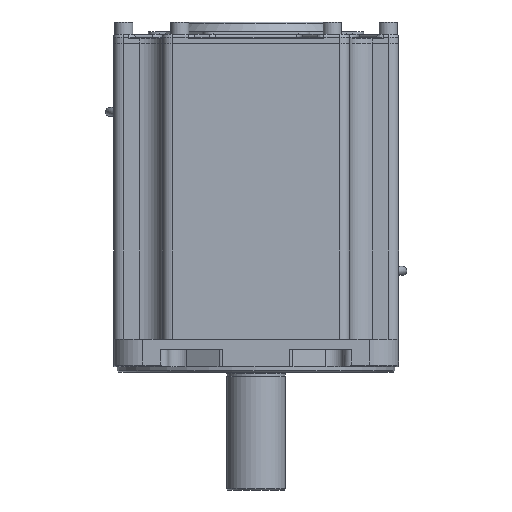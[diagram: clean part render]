
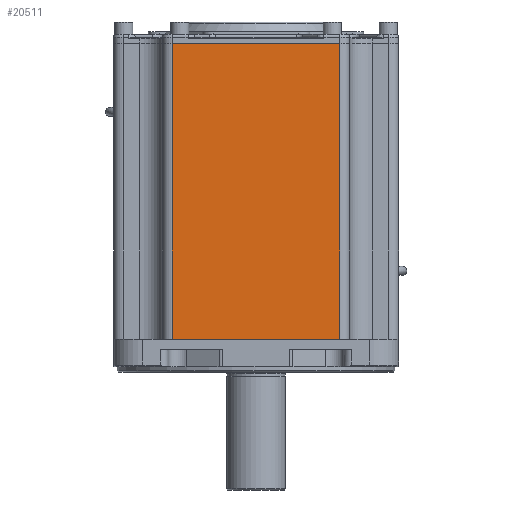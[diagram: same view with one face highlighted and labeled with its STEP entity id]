
A CAD part, front view. The second image highlights one B-rep face of the part: STEP entity #20511.
In plain terms, the highlighted planar face has unit normal (0, -1, 0).
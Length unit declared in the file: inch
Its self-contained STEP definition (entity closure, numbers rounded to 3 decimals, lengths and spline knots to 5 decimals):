
#5789=CARTESIAN_POINT('',(2.14,-3.64,7.91));
#5790=VERTEX_POINT('',#5789);
#6002=CARTESIAN_POINT('',(-2.14,-3.64,7.91));
#6003=VERTEX_POINT('',#6002);
#6010=CARTESIAN_POINT('',(-2.14,-3.64,7.91));
#6011=DIRECTION('',(1.0,0.0,0.0));
#6012=VECTOR('',#6011,4.28);
#6013=LINE('',#6010,#6012);
#6014=EDGE_CURVE('',#6003,#5790,#6013,.T.);
#8060=CARTESIAN_POINT('',(-2.14,-3.64,0.35));
#8061=VERTEX_POINT('',#8060);
#8069=CARTESIAN_POINT('',(-2.14,-3.64,0.35));
#8070=DIRECTION('',(0.0,0.0,1.0));
#8071=VECTOR('',#8070,7.56);
#8072=LINE('',#8069,#8071);
#8073=EDGE_CURVE('',#8061,#6003,#8072,.T.);
#20476=CARTESIAN_POINT('',(2.14,-3.64,0.35));
#20477=VERTEX_POINT('',#20476);
#20478=CARTESIAN_POINT('',(2.14,-3.64,7.91));
#20479=DIRECTION('',(0.0,0.0,-1.0));
#20480=VECTOR('',#20479,7.56);
#20481=LINE('',#20478,#20480);
#20482=EDGE_CURVE('',#5790,#20477,#20481,.T.);
#20495=CARTESIAN_POINT('',(3.64,-3.64,0.0));
#20496=DIRECTION('',(0.0,-1.0,0.0));
#20497=DIRECTION('',(0.0,0.0,-1.0));
#20498=AXIS2_PLACEMENT_3D('',#20495,#20496,#20497);
#20499=PLANE('',#20498);
#20500=ORIENTED_EDGE('',*,*,#6014,.F.);
#20501=ORIENTED_EDGE('',*,*,#8073,.F.);
#20502=CARTESIAN_POINT('',(2.14,-3.64,0.35));
#20503=DIRECTION('',(-1.0,0.0,0.0));
#20504=VECTOR('',#20503,4.28);
#20505=LINE('',#20502,#20504);
#20506=EDGE_CURVE('',#20477,#8061,#20505,.T.);
#20507=ORIENTED_EDGE('',*,*,#20506,.F.);
#20508=ORIENTED_EDGE('',*,*,#20482,.F.);
#20509=EDGE_LOOP('',(#20500,#20501,#20507,#20508));
#20510=FACE_OUTER_BOUND('',#20509,.T.);
#20511=ADVANCED_FACE('',(#20510),#20499,.T.);
